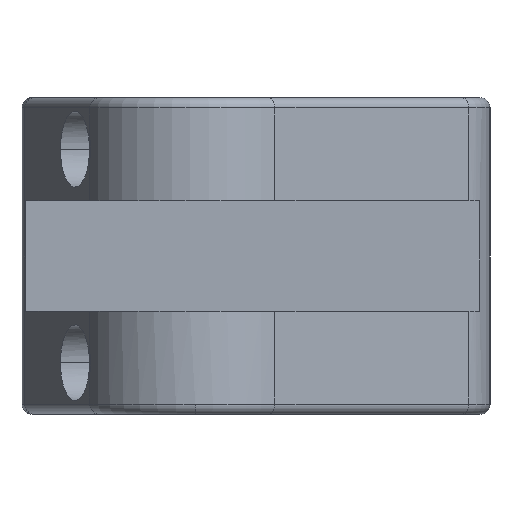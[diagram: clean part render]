
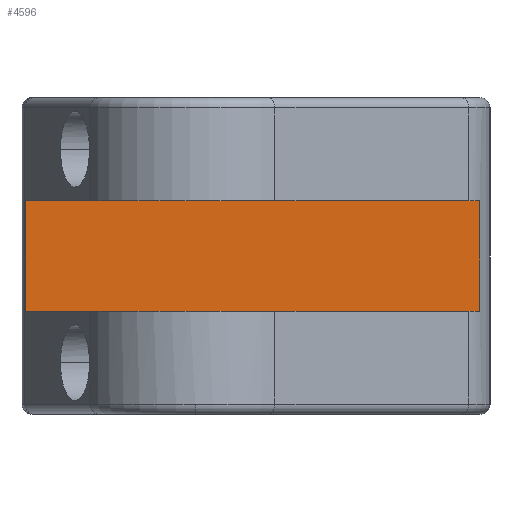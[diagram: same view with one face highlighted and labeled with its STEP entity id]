
A CAD part, left-side view. The second image highlights one B-rep face of the part: STEP entity #4596.
In plain terms, the highlighted planar face has unit normal (-1, 0, 0).
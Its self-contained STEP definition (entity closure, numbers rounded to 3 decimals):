
#126 = CARTESIAN_POINT ( 'NONE',  ( 79.167, 60., -351.462 ) ) ;
#137 = EDGE_LOOP ( 'NONE', ( #4487, #3464, #2161, #1528 ) ) ;
#222 = DIRECTION ( 'NONE',  ( 0., 0., -1. ) ) ;
#462 = EDGE_CURVE ( 'NONE', #2093, #3177, #4796, .T. ) ;
#572 = PLANE ( 'NONE',  #3770 ) ;
#593 = CARTESIAN_POINT ( 'NONE',  ( 79.167, 18.466, -319.477 ) ) ;
#615 = EDGE_CURVE ( 'NONE', #3176, #3177, #1417, .T. ) ;
#905 = LINE ( 'NONE', #126, #1729 ) ;
#935 = CARTESIAN_POINT ( 'NONE',  ( 79.167, 60., -319.477 ) ) ;
#1020 = VECTOR ( 'NONE', #1102, 1000. ) ;
#1102 = DIRECTION ( 'NONE',  ( 0., 0., 1. ) ) ;
#1192 = DIRECTION ( 'NONE',  ( 0., -1., 0. ) ) ;
#1417 = LINE ( 'NONE', #2179, #3442 ) ;
#1446 = CARTESIAN_POINT ( 'NONE',  ( 79.167, -113.286, -380.236 ) ) ;
#1486 = VECTOR ( 'NONE', #222, 1000. ) ;
#1528 = ORIENTED_EDGE ( 'NONE', *, *, #462, .T. ) ;
#1729 = VECTOR ( 'NONE', #1192, 1000. ) ;
#2093 = VERTEX_POINT ( 'NONE', #3811 ) ;
#2161 = ORIENTED_EDGE ( 'NONE', *, *, #4110, .T. ) ;
#2179 = CARTESIAN_POINT ( 'NONE',  ( 79.167, 60., -319.477 ) ) ;
#2431 = CARTESIAN_POINT ( 'NONE',  ( 79.167, -113.286, -319.477 ) ) ;
#2643 = EDGE_CURVE ( 'NONE', #3176, #4319, #2720, .T. ) ;
#2720 = LINE ( 'NONE', #593, #1486 ) ;
#3168 = FACE_OUTER_BOUND ( 'NONE', #137, .T. ) ;
#3176 = VERTEX_POINT ( 'NONE', #4287 ) ;
#3177 = VERTEX_POINT ( 'NONE', #2431 ) ;
#3442 = VECTOR ( 'NONE', #4766, 1000. ) ;
#3464 = ORIENTED_EDGE ( 'NONE', *, *, #2643, .T. ) ;
#3665 = CARTESIAN_POINT ( 'NONE',  ( 79.167, 18.466, -351.462 ) ) ;
#3770 = AXIS2_PLACEMENT_3D ( 'NONE', #935, #4213, #3882 ) ;
#3811 = CARTESIAN_POINT ( 'NONE',  ( 79.167, -113.286, -351.462 ) ) ;
#3882 = DIRECTION ( 'NONE',  ( 0., 0., 1. ) ) ;
#4110 = EDGE_CURVE ( 'NONE', #4319, #2093, #905, .T. ) ;
#4213 = DIRECTION ( 'NONE',  ( -1., 0., 0. ) ) ;
#4287 = CARTESIAN_POINT ( 'NONE',  ( 79.167, 18.466, -319.477 ) ) ;
#4319 = VERTEX_POINT ( 'NONE', #3665 ) ;
#4487 = ORIENTED_EDGE ( 'NONE', *, *, #615, .F. ) ;
#4596 = ADVANCED_FACE ( 'NONE', ( #3168 ), #572, .T. ) ;
#4766 = DIRECTION ( 'NONE',  ( 0., -1., 0. ) ) ;
#4796 = LINE ( 'NONE', #1446, #1020 ) ;
